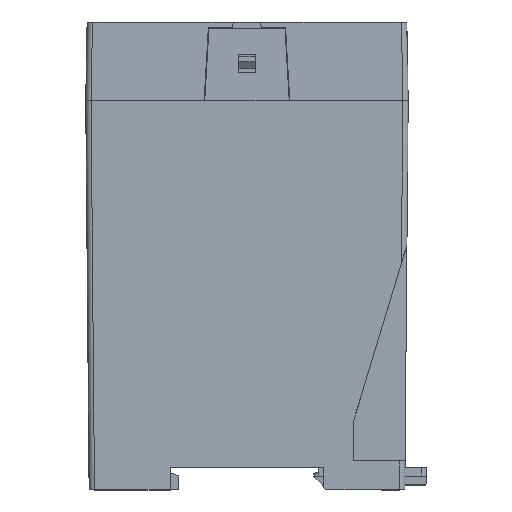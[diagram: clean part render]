
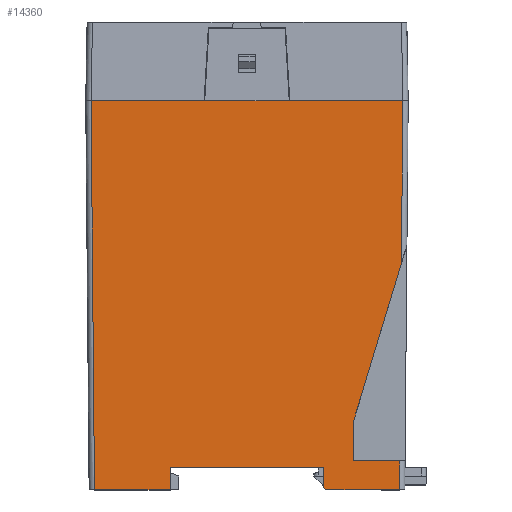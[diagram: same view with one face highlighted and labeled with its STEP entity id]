
A CAD part, top view. The second image highlights one B-rep face of the part: STEP entity #14360.
In plain terms, the highlighted planar face has unit normal (0, -0.009, 1).
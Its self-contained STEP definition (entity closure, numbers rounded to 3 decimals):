
#114 = CARTESIAN_POINT ( 'NONE',  ( -35.559, -90.7, 24.208 ) ) ;
#900 = FACE_OUTER_BOUND ( 'NONE', #28456, .T. ) ;
#1233 = EDGE_CURVE ( 'NONE', #19046, #16197, #30206, .T. ) ;
#1479 = DIRECTION ( 'NONE',  ( 0.009, 1., 0.009 ) ) ;
#2147 = DIRECTION ( 'NONE',  ( -1., 0., 0. ) ) ;
#2358 = DIRECTION ( 'NONE',  ( 0.009, 1., 0.009 ) ) ;
#2429 = DIRECTION ( 'NONE',  ( 1., 0., 0. ) ) ;
#3267 = VECTOR ( 'NONE', #11094, 1000. ) ;
#3551 = VECTOR ( 'NONE', #2358, 1000. ) ;
#3832 = VERTEX_POINT ( 'NONE', #21099 ) ;
#3945 = VERTEX_POINT ( 'NONE', #16083 ) ;
#4097 = CARTESIAN_POINT ( 'NONE',  ( 35.617, -84., 24.267 ) ) ;
#4263 = VECTOR ( 'NONE', #9986, 1000. ) ;
#4780 = LINE ( 'NONE', #25850, #27434 ) ;
#4792 = VERTEX_POINT ( 'NONE', #18704 ) ;
#4930 = VERTEX_POINT ( 'NONE', #21808 ) ;
#4942 = CARTESIAN_POINT ( 'NONE',  ( -37.6, -85.5, 24.254 ) ) ;
#5466 = VECTOR ( 'NONE', #29900, 1000. ) ;
#5651 = CARTESIAN_POINT ( 'NONE',  ( -17.178, -55.738, 24.514 ) ) ;
#5728 = CARTESIAN_POINT ( 'NONE',  ( 37.6, -84., 24.267 ) ) ;
#5953 = CARTESIAN_POINT ( 'NONE',  ( 24.861, 0., 25. ) ) ;
#6053 = VERTEX_POINT ( 'NONE', #18549 ) ;
#6979 = VECTOR ( 'NONE', #2429, 1000. ) ;
#7209 = CARTESIAN_POINT ( 'NONE',  ( 36.35, 0.011, 25. ) ) ;
#7276 = AXIS2_PLACEMENT_3D ( 'NONE', #30411, #9371, #9195 ) ;
#7770 = ORIENTED_EDGE ( 'NONE', *, *, #17541, .T. ) ;
#8181 = CARTESIAN_POINT ( 'NONE',  ( 17.891, -90.2, 24.213 ) ) ;
#8388 = EDGE_CURVE ( 'NONE', #33135, #4930, #10092, .T. ) ;
#8619 = DIRECTION ( 'NONE',  ( 0.29, 0.957, 0.008 ) ) ;
#9195 = DIRECTION ( 'NONE',  ( 0., -1., -0.009 ) ) ;
#9371 = DIRECTION ( 'NONE',  ( 0., -0.009, 1. ) ) ;
#9709 = EDGE_CURVE ( 'NONE', #20643, #23736, #24552, .T. ) ;
#9719 = EDGE_CURVE ( 'NONE', #3945, #3832, #19552, .T. ) ;
#9728 = CARTESIAN_POINT ( 'NONE',  ( -9.85, 0., 25. ) ) ;
#9732 = ORIENTED_EDGE ( 'NONE', *, *, #32780, .T. ) ;
#9986 = DIRECTION ( 'NONE',  ( 1., 0., 0. ) ) ;
#10092 = LINE ( 'NONE', #20795, #24705 ) ;
#10484 = EDGE_CURVE ( 'NONE', #19046, #4930, #26898, .T. ) ;
#10589 = ORIENTED_EDGE ( 'NONE', *, *, #21833, .F. ) ;
#10744 = CARTESIAN_POINT ( 'NONE',  ( -17.85, -90.7, 24.208 ) ) ;
#11094 = DIRECTION ( 'NONE',  ( -1., 0., 0. ) ) ;
#11662 = LINE ( 'NONE', #14595, #17908 ) ;
#11695 = VECTOR ( 'NONE', #8619, 1000. ) ;
#12116 = LINE ( 'NONE', #17314, #28339 ) ;
#12218 = ORIENTED_EDGE ( 'NONE', *, *, #26876, .T. ) ;
#12519 = DIRECTION ( 'NONE',  ( 1., 0., 0. ) ) ;
#13011 = CARTESIAN_POINT ( 'NONE',  ( -15., 0., 25. ) ) ;
#13326 = ORIENTED_EDGE ( 'NONE', *, *, #9709, .T. ) ;
#13662 = VECTOR ( 'NONE', #18793, 1000. ) ;
#14182 = CARTESIAN_POINT ( 'NONE',  ( 24.861, -74.7, 24.348 ) ) ;
#14360 = ADVANCED_FACE ( 'NONE', ( #900 ), #33003, .T. ) ;
#14439 = VERTEX_POINT ( 'NONE', #14182 ) ;
#14462 = ORIENTED_EDGE ( 'NONE', *, *, #25979, .F. ) ;
#14595 = CARTESIAN_POINT ( 'NONE',  ( -17.85, -85.5, 24.254 ) ) ;
#15241 = LINE ( 'NONE', #15739, #6979 ) ;
#15291 = LINE ( 'NONE', #13011, #32810 ) ;
#15657 = CARTESIAN_POINT ( 'NONE',  ( 36.35, 0.011, 25. ) ) ;
#15739 = CARTESIAN_POINT ( 'NONE',  ( -49., 0., 25. ) ) ;
#15986 = VECTOR ( 'NONE', #24164, 1000. ) ;
#16083 = CARTESIAN_POINT ( 'NONE',  ( 36.019, -37.94, 24.669 ) ) ;
#16197 = VERTEX_POINT ( 'NONE', #22025 ) ;
#16518 = LINE ( 'NONE', #5953, #24452 ) ;
#17314 = CARTESIAN_POINT ( 'NONE',  ( -36.344, -0.645, 24.994 ) ) ;
#17541 = EDGE_CURVE ( 'NONE', #23736, #14439, #16518, .T. ) ;
#17908 = VECTOR ( 'NONE', #1479, 1000. ) ;
#17960 = ORIENTED_EDGE ( 'NONE', *, *, #19955, .F. ) ;
#18549 = CARTESIAN_POINT ( 'NONE',  ( -17.895, -90.7, 24.208 ) ) ;
#18704 = CARTESIAN_POINT ( 'NONE',  ( -17.85, -85.5, 24.254 ) ) ;
#18735 = EDGE_CURVE ( 'NONE', #6053, #4792, #11662, .T. ) ;
#18793 = DIRECTION ( 'NONE',  ( 0.713, -0.701, -0.006 ) ) ;
#19046 = VERTEX_POINT ( 'NONE', #8181 ) ;
#19367 = LINE ( 'NONE', #10744, #21256 ) ;
#19440 = CARTESIAN_POINT ( 'NONE',  ( 35.559, -90.7, 24.208 ) ) ;
#19552 = LINE ( 'NONE', #15657, #5466 ) ;
#19955 = EDGE_CURVE ( 'NONE', #32484, #32626, #15291, .T. ) ;
#20643 = VERTEX_POINT ( 'NONE', #4097 ) ;
#20795 = CARTESIAN_POINT ( 'NONE',  ( 36.854, -90.7, 24.208 ) ) ;
#21099 = CARTESIAN_POINT ( 'NONE',  ( 36.35, 0., 25. ) ) ;
#21256 = VECTOR ( 'NONE', #32294, 1000. ) ;
#21808 = CARTESIAN_POINT ( 'NONE',  ( 18.4, -90.7, 24.208 ) ) ;
#21833 = EDGE_CURVE ( 'NONE', #6053, #32954, #19367, .T. ) ;
#22025 = CARTESIAN_POINT ( 'NONE',  ( 17.85, -85.5, 24.254 ) ) ;
#22260 = CARTESIAN_POINT ( 'NONE',  ( 46.697, -2.761, 24.976 ) ) ;
#22368 = DIRECTION ( 'NONE',  ( 0., 1., 0.009 ) ) ;
#22529 = ORIENTED_EDGE ( 'NONE', *, *, #32519, .T. ) ;
#23312 = VERTEX_POINT ( 'NONE', #23666 ) ;
#23666 = CARTESIAN_POINT ( 'NONE',  ( -36.35, 0., 25. ) ) ;
#23736 = VERTEX_POINT ( 'NONE', #29639 ) ;
#23843 = CARTESIAN_POINT ( 'NONE',  ( 9.85, 0., 25. ) ) ;
#24164 = DIRECTION ( 'NONE',  ( -0.009, 1., 0.009 ) ) ;
#24452 = VECTOR ( 'NONE', #22368, 1000. ) ;
#24552 = LINE ( 'NONE', #5728, #3267 ) ;
#24705 = VECTOR ( 'NONE', #2147, 1000. ) ;
#24896 = DIRECTION ( 'NONE',  ( 0.009, -1., -0.009 ) ) ;
#25694 = ORIENTED_EDGE ( 'NONE', *, *, #30398, .T. ) ;
#25850 = CARTESIAN_POINT ( 'NONE',  ( 49., 0., 25. ) ) ;
#25979 = EDGE_CURVE ( 'NONE', #23312, #32484, #15241, .T. ) ;
#26014 = LINE ( 'NONE', #7209, #3551 ) ;
#26680 = ORIENTED_EDGE ( 'NONE', *, *, #18735, .T. ) ;
#26756 = CARTESIAN_POINT ( 'NONE',  ( 17.851, -85.627, 24.253 ) ) ;
#26876 = EDGE_CURVE ( 'NONE', #4792, #16197, #28442, .T. ) ;
#26891 = EDGE_CURVE ( 'NONE', #32626, #3832, #4780, .T. ) ;
#26898 = LINE ( 'NONE', #5651, #13662 ) ;
#27205 = ORIENTED_EDGE ( 'NONE', *, *, #10484, .T. ) ;
#27428 = LINE ( 'NONE', #22260, #11695 ) ;
#27434 = VECTOR ( 'NONE', #28107, 1000. ) ;
#28107 = DIRECTION ( 'NONE',  ( 1., 0., 0. ) ) ;
#28339 = VECTOR ( 'NONE', #24896, 1000. ) ;
#28442 = LINE ( 'NONE', #4942, #4263 ) ;
#28456 = EDGE_LOOP ( 'NONE', ( #30181, #27205, #28600, #9732, #13326, #7770, #25694, #33229, #34075, #17960, #14462, #22529, #10589, #26680, #12218 ) ) ;
#28600 = ORIENTED_EDGE ( 'NONE', *, *, #8388, .F. ) ;
#29639 = CARTESIAN_POINT ( 'NONE',  ( 24.861, -84., 24.267 ) ) ;
#29900 = DIRECTION ( 'NONE',  ( 0.009, 1., 0.009 ) ) ;
#30181 = ORIENTED_EDGE ( 'NONE', *, *, #1233, .F. ) ;
#30206 = LINE ( 'NONE', #26756, #15986 ) ;
#30398 = EDGE_CURVE ( 'NONE', #14439, #3945, #27428, .T. ) ;
#30411 = CARTESIAN_POINT ( 'NONE',  ( 37.6, 0., 25. ) ) ;
#32294 = DIRECTION ( 'NONE',  ( -1., 0., 0. ) ) ;
#32484 = VERTEX_POINT ( 'NONE', #9728 ) ;
#32519 = EDGE_CURVE ( 'NONE', #23312, #32954, #12116, .T. ) ;
#32626 = VERTEX_POINT ( 'NONE', #23843 ) ;
#32780 = EDGE_CURVE ( 'NONE', #33135, #20643, #26014, .T. ) ;
#32810 = VECTOR ( 'NONE', #12519, 1000. ) ;
#32954 = VERTEX_POINT ( 'NONE', #114 ) ;
#33003 = PLANE ( 'NONE',  #7276 ) ;
#33135 = VERTEX_POINT ( 'NONE', #19440 ) ;
#33229 = ORIENTED_EDGE ( 'NONE', *, *, #9719, .T. ) ;
#34075 = ORIENTED_EDGE ( 'NONE', *, *, #26891, .F. ) ;
